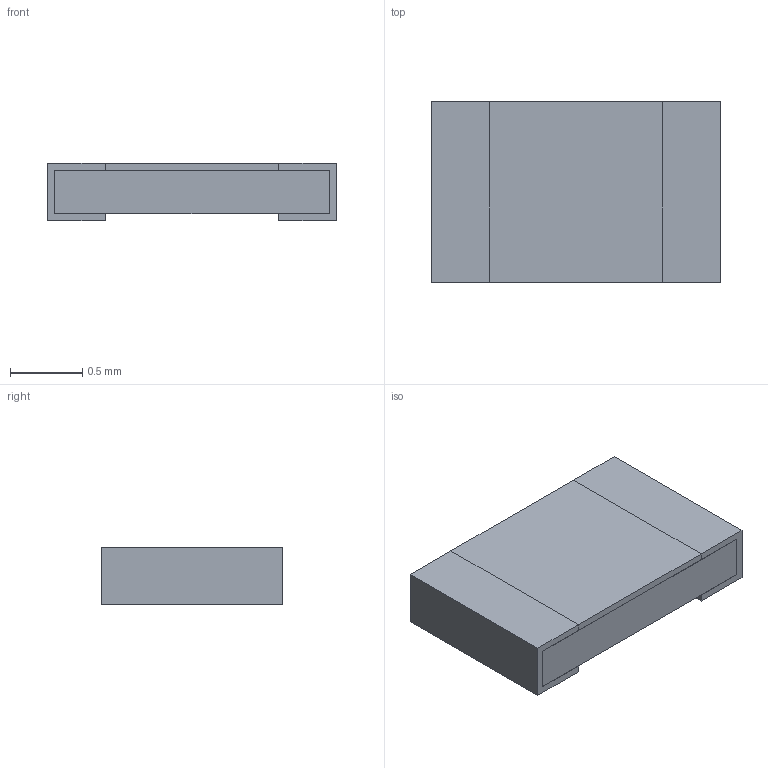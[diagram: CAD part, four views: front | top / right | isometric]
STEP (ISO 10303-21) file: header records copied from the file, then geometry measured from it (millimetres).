
FILE_DESCRIPTION(('STEP AP203'), '1');
FILE_NAME('栖闉罻', '', ('UNSPECIFIED'), ('UNSPECIFIED'), 'ASCON STEP Converter 1.6', 'ASCON Math Kernel', '');
FILE_SCHEMA(('CONFIG_CONTROL_DESIGN'));
Length unit declared in the file: millimetre
Assembly tree (1 placements, depth 2):
  (unnamed)
    (unnamed)
Bounding box: 2 x 1.25 x 0.4 mm (x, y, z)
Volume: 0.9 mm3; surface area: 16.1 mm2
Topology: 4 solids, 5 shells, 51 faces, 123 edges, 82 vertices
Faces by surface type: plane 47, cylinder 4
Entity records: 1987 total; most frequent: CARTESIAN_POINT 258, ORIENTED_EDGE 246, DIRECTION 237, EDGE_CURVE 123, LINE 115, VECTOR 115, VERTEX_POINT 82, AXIS2_PLACEMENT_3D 61
